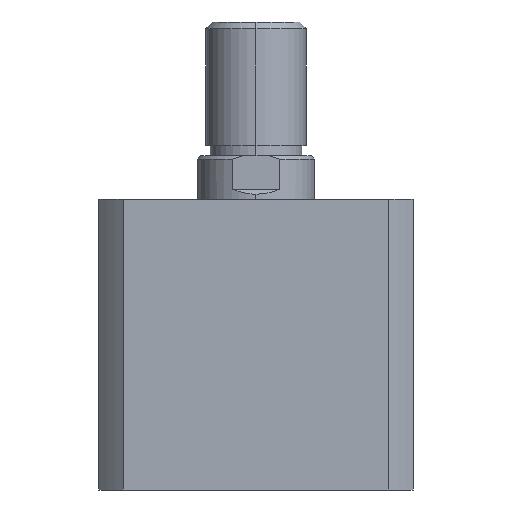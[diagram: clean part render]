
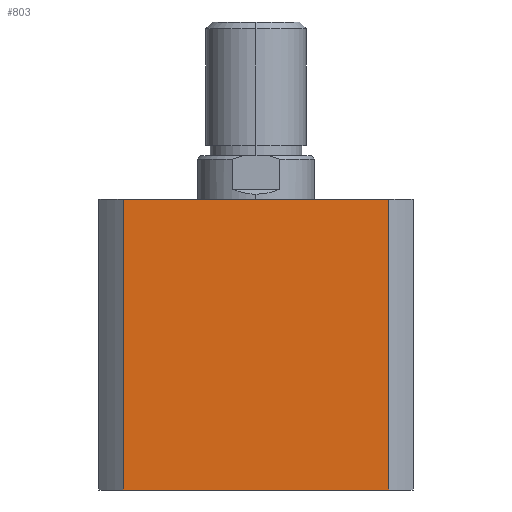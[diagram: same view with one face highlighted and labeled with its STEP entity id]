
A CAD part, left-side view. The second image highlights one B-rep face of the part: STEP entity #803.
In plain terms, the highlighted planar face has unit normal (-1, 0, 0).
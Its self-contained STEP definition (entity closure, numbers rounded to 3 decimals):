
#561 = EDGE_LOOP ( 'NONE', ( #1592, #1593, #1594, #1598 ) ) ;
#803 = ADVANCED_FACE ( 'NONE', ( #2525 ), #953, .F. ) ;
#948 = CARTESIAN_POINT ( 'NONE',  ( -47., 0., 87. ) ) ;
#953 = PLANE ( 'NONE',  #4030 ) ;
#956 = DIRECTION ( 'NONE',  ( 1., 0., 0. ) ) ;
#957 = DIRECTION ( 'NONE',  ( 0., 0., -1. ) ) ;
#1098 = LINE ( 'NONE', #1739, #1104 ) ;
#1102 = LINE ( 'NONE', #1738, #1108 ) ;
#1103 = LINE ( 'NONE', #1743, #1106 ) ;
#1104 = VECTOR ( 'NONE', #1735, 1000. ) ;
#1106 = VECTOR ( 'NONE', #1745, 1000. ) ;
#1108 = VECTOR ( 'NONE', #1746, 1000. ) ;
#1307 = EDGE_CURVE ( 'NONE', #2396, #2397, #4994, .T. ) ;
#1592 = ORIENTED_EDGE ( 'NONE', *, *, #4182, .T. ) ;
#1593 = ORIENTED_EDGE ( 'NONE', *, *, #4181, .F. ) ;
#1594 = ORIENTED_EDGE ( 'NONE', *, *, #1307, .F. ) ;
#1598 = ORIENTED_EDGE ( 'NONE', *, *, #4183, .T. ) ;
#1735 = DIRECTION ( 'NONE',  ( 0., 0., -1. ) ) ;
#1738 = CARTESIAN_POINT ( 'NONE',  ( -47., 39.664, 87. ) ) ;
#1739 = CARTESIAN_POINT ( 'NONE',  ( -47., -39.664, 87. ) ) ;
#1743 = CARTESIAN_POINT ( 'NONE',  ( -47., 0., 0. ) ) ;
#1745 = DIRECTION ( 'NONE',  ( 0., -1., 0. ) ) ;
#1746 = DIRECTION ( 'NONE',  ( 0., 0., -1. ) ) ;
#2396 = VERTEX_POINT ( 'NONE', #3166 ) ;
#2397 = VERTEX_POINT ( 'NONE', #3167 ) ;
#2417 = VERTEX_POINT ( 'NONE', #3187 ) ;
#2418 = VERTEX_POINT ( 'NONE', #3188 ) ;
#2525 = FACE_OUTER_BOUND ( 'NONE', #561, .T. ) ;
#3166 = CARTESIAN_POINT ( 'NONE',  ( -47., 39.664, 87. ) ) ;
#3167 = CARTESIAN_POINT ( 'NONE',  ( -47., -39.664, 87. ) ) ;
#3187 = CARTESIAN_POINT ( 'NONE',  ( -47., 39.664, 0. ) ) ;
#3188 = CARTESIAN_POINT ( 'NONE',  ( -47., -39.664, 0. ) ) ;
#3336 = DIRECTION ( 'NONE',  ( 0., -1., 0. ) ) ;
#3337 = CARTESIAN_POINT ( 'NONE',  ( -47., 0., 87. ) ) ;
#4030 = AXIS2_PLACEMENT_3D ( 'NONE', #948, #956, #957 ) ;
#4181 = EDGE_CURVE ( 'NONE', #2397, #2418, #1098, .T. ) ;
#4182 = EDGE_CURVE ( 'NONE', #2417, #2418, #1103, .T. ) ;
#4183 = EDGE_CURVE ( 'NONE', #2396, #2417, #1102, .T. ) ;
#4994 = LINE ( 'NONE', #3337, #4996 ) ;
#4996 = VECTOR ( 'NONE', #3336, 1000. ) ;
